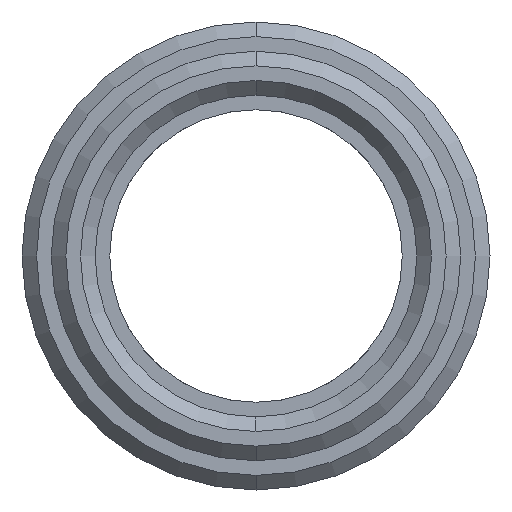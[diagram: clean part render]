
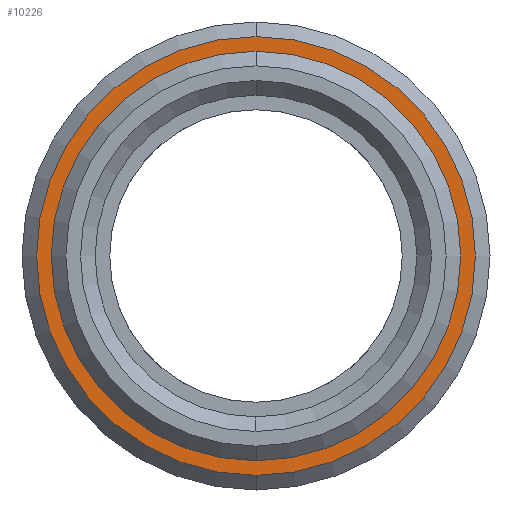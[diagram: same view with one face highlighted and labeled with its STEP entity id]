
A CAD part, left-side view. The second image highlights one B-rep face of the part: STEP entity #10226.
In plain terms, the highlighted planar face has unit normal (-1, 0, 0).
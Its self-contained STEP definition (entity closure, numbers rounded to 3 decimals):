
#3978=CARTESIAN_POINT('',(0.,0.,0.));
#3979=DIRECTION('',(1.,0.,0.));
#3980=DIRECTION('',(0.,0.,1.));
#3981=AXIS2_PLACEMENT_3D('',#3978,#3979,#3980);
#3983=CARTESIAN_POINT('',(0.,0.,0.));
#3984=DIRECTION('',(-1.,0.,0.));
#3985=DIRECTION('',(0.,0.,1.));
#3986=AXIS2_PLACEMENT_3D('',#3983,#3984,#3985);
#3988=CARTESIAN_POINT('',(0.,0.,0.));
#3989=DIRECTION('',(1.,0.,0.));
#3990=DIRECTION('',(0.,0.,-1.));
#3991=AXIS2_PLACEMENT_3D('',#3988,#3989,#3990);
#3993=CARTESIAN_POINT('',(0.,0.,0.));
#3994=DIRECTION('',(1.,0.,0.));
#3995=DIRECTION('',(0.,0.,1.));
#3996=AXIS2_PLACEMENT_3D('',#3993,#3994,#3995);
#8142=CARTESIAN_POINT('',(0.,0.,-7.5));
#8143=CARTESIAN_POINT('',(0.,0.,7.5));
#8144=VERTEX_POINT('',#8142);
#8145=VERTEX_POINT('',#8143);
#8442=CARTESIAN_POINT('',(0.,0.,7.));
#8443=CARTESIAN_POINT('',(0.,0.,-7.));
#8444=VERTEX_POINT('',#8442);
#8445=VERTEX_POINT('',#8443);
#10211=CARTESIAN_POINT('',(0.,0.,0.));
#10212=DIRECTION('',(1.,0.,0.));
#10213=DIRECTION('',(0.,0.,1.));
#10214=AXIS2_PLACEMENT_3D('',#10211,#10212,#10213);
#10215=PLANE('',#10214);
#10217=ORIENTED_EDGE('',*,*,#10216,.T.);
#10219=ORIENTED_EDGE('',*,*,#10218,.T.);
#10220=EDGE_LOOP('',(#10217,#10219));
#10221=FACE_OUTER_BOUND('',#10220,.F.);
#10222=ORIENTED_EDGE('',*,*,#10178,.F.);
#10223=ORIENTED_EDGE('',*,*,#10193,.T.);
#10224=EDGE_LOOP('',(#10222,#10223));
#10225=FACE_BOUND('',#10224,.F.);
#10226=ADVANCED_FACE('',(#10221,#10225),#10215,.F.);
#3982=CIRCLE('',#3981,7.);
#3987=CIRCLE('',#3986,7.);
#3992=CIRCLE('',#3991,7.5);
#3997=CIRCLE('',#3996,7.5);
#10178=EDGE_CURVE('',#8444,#8445,#3982,.T.);
#10193=EDGE_CURVE('',#8444,#8445,#3987,.T.);
#10216=EDGE_CURVE('',#8144,#8145,#3992,.T.);
#10218=EDGE_CURVE('',#8145,#8144,#3997,.T.);
